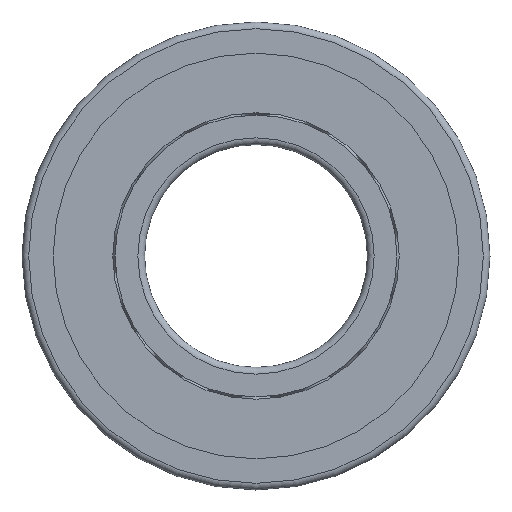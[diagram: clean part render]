
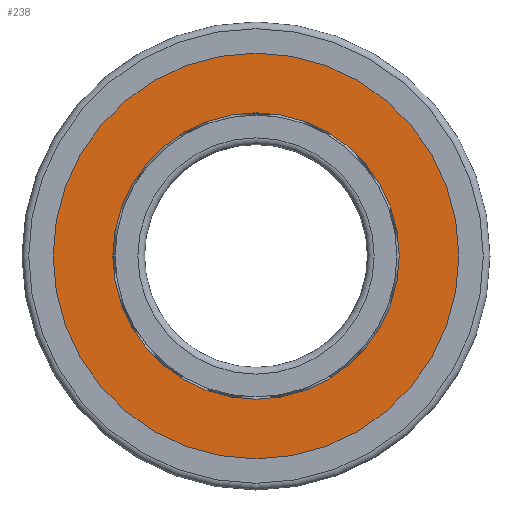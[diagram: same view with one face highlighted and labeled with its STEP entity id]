
A CAD part, left-side view. The second image highlights one B-rep face of the part: STEP entity #238.
In plain terms, the highlighted planar face has unit normal (-1, 0, 0).
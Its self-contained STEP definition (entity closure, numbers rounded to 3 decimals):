
#192=PLANE('',#856);
#238=ADVANCED_FACE('',(#313,#314),#192,.F.);
#313=FACE_BOUND('',#447,.T.);
#314=FACE_BOUND('',#448,.T.);
#447=EDGE_LOOP('',(#567));
#448=EDGE_LOOP('',(#568));
#567=ORIENTED_EDGE('',*,*,#753,.F.);
#568=ORIENTED_EDGE('',*,*,#751,.T.);
#677=VERTEX_POINT('',#1140);
#679=VERTEX_POINT('',#1145);
#751=EDGE_CURVE('',#677,#677,#811,.T.);
#753=EDGE_CURVE('',#679,#679,#813,.T.);
#811=CIRCLE('',#852,18.2);
#813=CIRCLE('',#855,12.85);
#852=AXIS2_PLACEMENT_3D('',#1139,#962,#963);
#855=AXIS2_PLACEMENT_3D('',#1144,#968,#969);
#856=AXIS2_PLACEMENT_3D('',#1146,#970,#971);
#962=DIRECTION('',(-1.,0.,0.));
#963=DIRECTION('',(0.,0.,1.));
#968=DIRECTION('',(-1.,0.,0.));
#969=DIRECTION('',(0.,0.,1.));
#970=DIRECTION('',(1.,0.,0.));
#971=DIRECTION('',(0.,0.,-1.));
#1139=CARTESIAN_POINT('',(0.1,0.,0.));
#1140=CARTESIAN_POINT('',(0.1,0.,18.2));
#1144=CARTESIAN_POINT('',(0.1,0.,0.));
#1145=CARTESIAN_POINT('',(0.1,0.,12.85));
#1146=CARTESIAN_POINT('',(0.1,0.,18.2));
